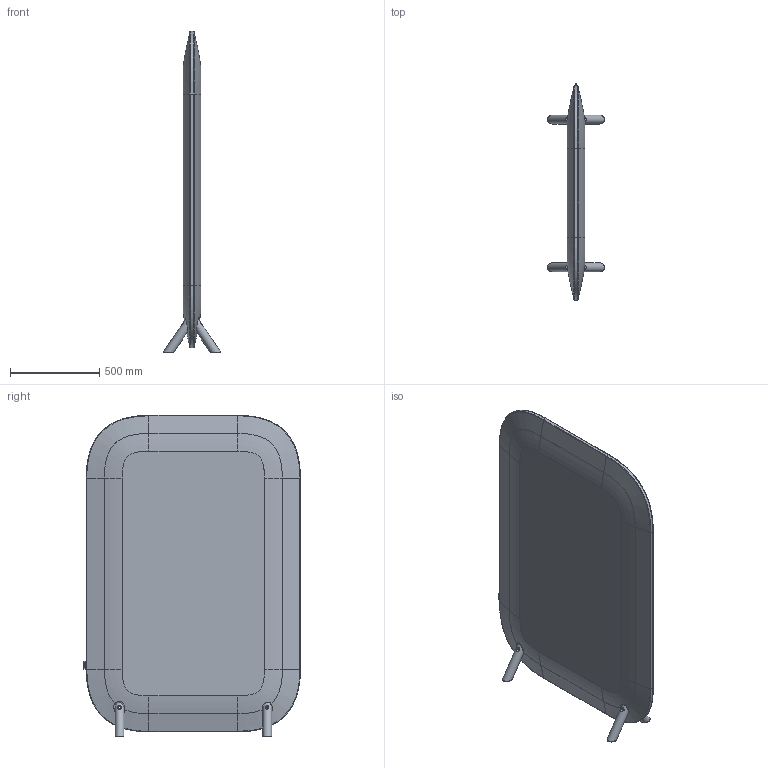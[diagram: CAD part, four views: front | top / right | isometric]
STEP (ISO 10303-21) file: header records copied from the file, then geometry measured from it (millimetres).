
FILE_DESCRIPTION(/* description */ ('Z0745','CAx-IF Rec.Pracs.---Representation and Presentation of Product Manufacturing Information (PMI)---4.0---2014-10-13'),/* implementation_level */ '2;1');
FILE_NAME(/* name */ 'SHADE_HEAVY_L_STEP.step',/* time_stamp */ '2025-01-14T14:41:20+01:00',/* author */ (''),/* organization */ (''),/* preprocessor_version */ 'ST-DEVELOPER v20',/* originating_system */ 'Autodesk Translation Framework v13.20.0.188',/* authorisation */ '');
FILE_SCHEMA (('AP242_MANAGED_MODEL_BASED_3D_ENGINEERING_MIM_LF { 1 0 10303 442 1 1 4 }'));
Length unit declared in the file: millimetre
Products named in the file (7): 1.0_S_HEAVY_L; Components; 1.1_S_HEAVY_L; Štítek SLB v3; 1.1.3_S_HEAVY_L; 1.2_S_HEAVY_L; SHADE TIMBER/HEAVY_noha Ø 50MM v10
Assembly tree (9 placements, depth 4):
  1.0_S_HEAVY_L
    Components
      1.1_S_HEAVY_L
        Štítek SLB v3
        1.1.3_S_HEAVY_L
      1.2_S_HEAVY_L
        SHADE TIMBER/HEAVY_noha Ø 50MM v10  x4
Bounding box: 322.4 x 1215 x 1800.37 mm (x, y, z)
Volume: 5785569.3 mm3; surface area: 8601033.3 mm2
Topology: 26 solids, 26 shells, 604 faces, 1446 edges, 900 vertices
Faces by surface type: bspline 346, plane 202, cylinder 56
Full cylindrical faces by diameter (mm): 8 x8, 9 x4, 20 x4, 50 x4
Entity records: 32422 total; most frequent: CARTESIAN_POINT 20457, ORIENTED_EDGE 2790, DIRECTION 1803, EDGE_CURVE 1395, VERTEX_POINT 867, LINE 671, VECTOR 671, EDGE_LOOP 588
